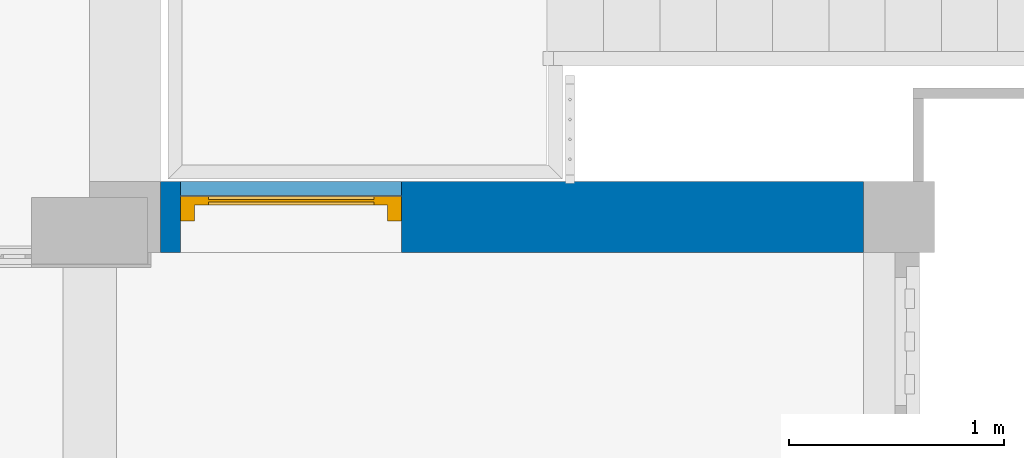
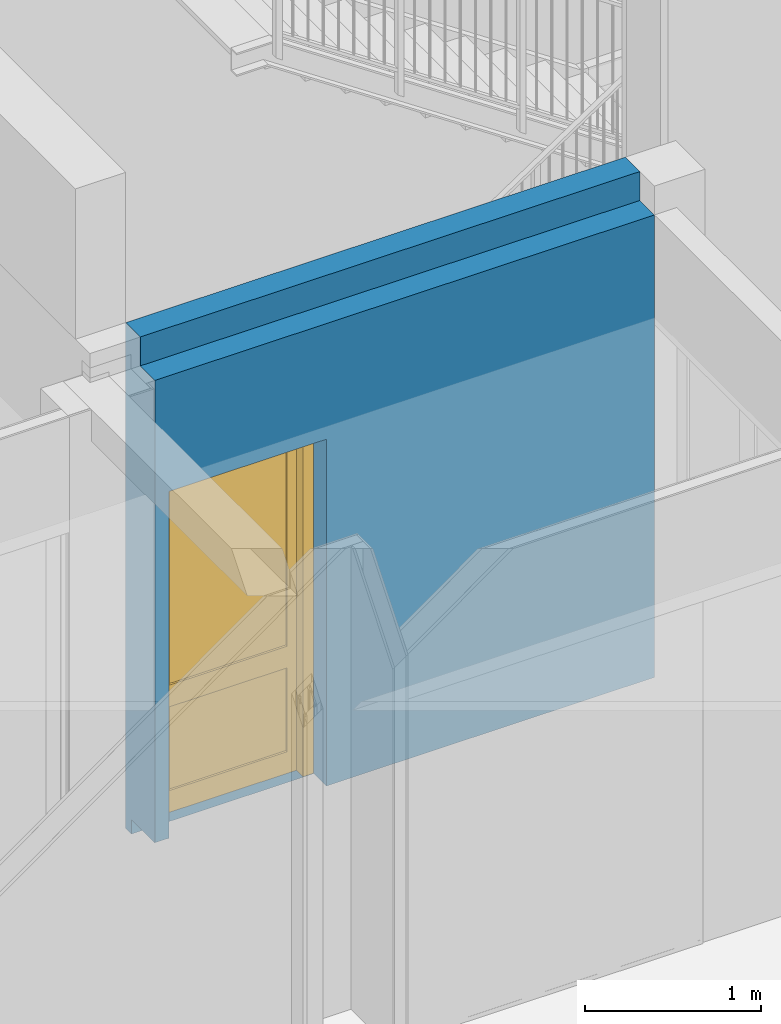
# One storey, part 40 of 117: 1 door, 1 wall, 1 opening.
"""IFC2X3 building model written with IfcOpenShell, lengths in millimetres."""

from ifc_helpers import new_model, entity, si_unit, converted_unit, derived_unit, money_unit, direction, frame, origin_with_axes, place, context, subcontext, project, spatial, faceted_brep, source, transform, mapped, material, type_object, type_shapes, element, fill, save


model = new_model("IFC2X3")

# Units and contexts
model_context = context("Model", 3, precision=0.01, world=origin_with_axes(), true_north=direction((0.0, 1.0)))
body_context = subcontext(model_context, "Body", "Model", "MODEL_VIEW")
ifc_project = project(units=[si_unit("LENGTHUNIT", "METRE", prefix="MILLI"), si_unit("AREAUNIT", "SQUARE_METRE"), si_unit("VOLUMEUNIT", "CUBIC_METRE"), converted_unit("PLANEANGLEUNIT", "DEGREE", entity("IfcPlaneAngleMeasure", 0.0174532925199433), si_unit("PLANEANGLEUNIT", "RADIAN"), dimensions=[0, 0, 0, 0, 0, 0, 0]), money_unit("EUR"), converted_unit("TIMEUNIT", "Year", entity("IfcTimeMeasure", 31557600.0), si_unit("TIMEUNIT", "SECOND"), dimensions=[0, 0, 1, 0, 0, 0, 0]), si_unit("MASSUNIT", "GRAM", prefix="KILO"), si_unit("THERMODYNAMICTEMPERATUREUNIT", "DEGREE_CELSIUS"), si_unit("LUMINOUSINTENSITYUNIT", "LUMEN"), si_unit("ENERGYUNIT", "JOULE", prefix="MEGA"), derived_unit("THERMALCONDUCTANCEUNIT", [(si_unit("POWERUNIT", "WATT"), 1), (si_unit("LENGTHUNIT", "METRE"), -1), (si_unit("THERMODYNAMICTEMPERATUREUNIT", "KELVIN"), -1)]), derived_unit("SPECIFICHEATCAPACITYUNIT", [(si_unit("ENERGYUNIT", "JOULE"), 1), (si_unit("MASSUNIT", "GRAM", prefix="KILO"), -1), (si_unit("THERMODYNAMICTEMPERATUREUNIT", "KELVIN"), -1)]), derived_unit("MASSDENSITYUNIT", [(si_unit("MASSUNIT", "GRAM", prefix="KILO"), 1), (si_unit("VOLUMEUNIT", "CUBIC_METRE"), -1)])], contexts=[model_context])

# Site, building, storey
site_placement = place(None, origin_with_axes())
site = spatial("IfcSite", under=ifc_project, at=site_placement, Name="Site", CompositionType="ELEMENT")
building_placement = place(site_placement, origin_with_axes())
building = spatial("IfcBuilding", under=site, at=building_placement, Name="Naam gebouw", CompositionType="ELEMENT")
storey_placement = place(building_placement, frame((0.0, 0.0, 4150.0), z_axis=(0.0, 0.0, 1.0), x_axis=(1.0, 0.0, 0.0)))
storey = spatial("IfcBuildingStorey", under=building, at=storey_placement, Name="1e verdieping N", CompositionType="ELEMENT", Elevation=4150.0)

# Wall, opening, door
ifc_material = material(Name="ALG - CONSTRUCTIEF")
wall_type = type_object("IfcWallType", Name="ALG - CONSTRUCTIEF 330", PredefinedType="NOTDEFINED")
wall_placement = place(storey_placement, frame((57599.99999999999, 20655.9124251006, -99.99999999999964), z_axis=(0.0, 0.0, 1.0), x_axis=(-1.0, 0.0, 0.0)))
wall = element("IfcWall", 1, at=wall_placement, inside=storey, type_object=wall_type, material=ifc_material, Name="_Wand-x", context=body_context, shape_type="Brep", body=[
    faceted_brep([(2148.07459316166, 70.00000000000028, 99.99999999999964), (2148.07459316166, 329.9999999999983, 99.99999999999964), (2148.07459316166, 329.9999999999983, 2500.0), (2148.07459316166, 0.0, 2500.0), (2148.07459316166, 0.0, 99.99999999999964), (2148.07459316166, 64.99999999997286, 99.99999999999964), (0.0, 64.99999999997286, 99.99999999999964), (0.0, 329.9999999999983, 99.99999999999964), (0.0, 330.0000000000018, 3300.0), (3269.999999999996, 329.9999999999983, 3300.0), (3269.999999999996, 329.9999999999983, 99.99999999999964), (3178.074593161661, 329.9999999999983, 99.99999999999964), (3178.074593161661, 329.9999999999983, 2500.0), (3178.074593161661, 0.0, 2500.0), (3269.999999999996, 0.0, 3500.0), (0.0, 0.0, 3500.0), (0.0, 0.0, 0.0), (3269.999999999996, 0.0, 0.0), (3178.074593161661, 0.0, 99.99999999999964), (3178.074593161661, 64.99999999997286, 99.99999999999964), (3269.999999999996, 64.99999999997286, 0.0), (0.0, 64.99999999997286, 0.0), (3269.999999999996, 64.99999999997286, 99.99999999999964), (0.0, 164.4824911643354, 3500.0), (0.0, 164.4824911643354, 3300.0), (3269.999999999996, 164.4824911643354, 3300.0), (3269.999999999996, 164.4824911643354, 3500.0), (3178.074593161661, 70.00000000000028, 99.99999999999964)], [[[0, 1, 2, 3, 4, 5]], [[1, 0, 5, 6, 7]], [[2, 1, 7, 8, 9, 10, 11, 12]], [[3, 2, 12, 13]], [[14, 15, 16, 17], [4, 3, 13, 18]], [[18, 19, 5, 4]], [[20, 21, 6, 5, 19, 22]], [[21, 16, 15, 23, 24, 8, 7, 6]], [[24, 25, 9, 8]], [[10, 9, 25, 26, 14, 17, 20, 22]], [[27, 11, 10, 22, 19]], [[12, 11, 27, 19, 18, 13]], [[23, 15, 14, 26]], [[20, 17, 16, 21]], [[23, 26, 25, 24]]]),
])
opening_placement = place(wall_placement, frame((2663.07459316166, 0.0, 99.99999999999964), z_axis=(0.0, 0.0, 1.0), x_axis=(1.0, 0.0, 0.0)))
opening = element("IfcOpeningElement", 2, at=opening_placement, cuts=wall, Name="_Merk-007", context=body_context, shape_type="Brep", body=[
    faceted_brep([(515.0000000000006, 70.00000000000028, 0.0), (515.0000000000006, 70.00000000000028, 2400.0), (515.0000000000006, -1.000000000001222, 2400.0), (515.0000000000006, -1.000000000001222, 0.0), (515.0000000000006, 330.9999999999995, 0.0), (515.0000000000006, 330.9999999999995, 2400.0), (-515.0000000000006, 70.00000000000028, 2400.0), (-515.0000000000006, -1.000000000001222, 2400.0), (-515.0000000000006, 330.9999999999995, 2400.0), (-515.0000000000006, -1.000000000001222, 0.0), (-515.0000000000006, 70.00000000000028, 0.0), (-515.0000000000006, 330.9999999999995, 0.0)], [[[0, 1, 2, 3]], [[1, 0, 4, 5]], [[6, 7, 2, 1, 5, 8]], [[7, 9, 3, 2]], [[0, 3, 9, 10, 11, 4]], [[5, 4, 11, 8]], [[6, 10, 9, 7]], [[10, 6, 8, 11]]]),
])
door_style = type_object("IfcDoorStyle", Name="D1 26", ConstructionType="NOTDEFINED", OperationType="SINGLE_SWING_LEFT", ParameterTakesPrecedence=False, Sizeable=False)
shared_shape = source(origin_with_axes(), body_context, "Body", "Brep", [
    faceted_brep([(448.0, -40.0, 0.0), (448.0, -114.0, 0.0), (448.0, -114.0, 2333.0), (448.0, -39.99999999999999, 2333.0), (465.0, -40.0, 0.0), (465.0, 0.0, 0.0), (515.0, 0.0, 0.0), (515.0, -114.0, 0.0), (515.0, -114.0, 2333.0), (465.0, -40.0, 2333.0), (515.0, 0.0, 2333.0), (465.0, 0.0, 2333.0)], [[[0, 1, 2, 3]], [[4, 5, 6, 7, 1, 0]], [[1, 7, 8, 2]], [[9, 3, 2, 8, 10, 11]], [[9, 4, 0, 3]], [[11, 5, 4, 9]], [[11, 10, 6, 5]], [[6, 10, 8, 7]]]),
    faceted_brep([(-465.0, -40.0, 2333.0), (-465.0, 0.0, 2333.0), (-515.0, 0.0, 2333.0), (-515.0, -114.0, 2333.0), (-448.0, -114.0, 2333.0), (-448.0, -39.99999999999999, 2333.0), (-465.0, -40.0, 0.0), (-465.0, 0.0, 0.0), (-515.0, 0.0, 0.0), (-515.0, -114.0, 0.0), (-448.0, -114.0, 0.0), (-448.0, -40.0, 0.0)], [[[0, 1, 2, 3, 4, 5]], [[0, 6, 7, 1]], [[7, 8, 2, 1]], [[2, 8, 9, 3]], [[3, 9, 10, 4]], [[5, 4, 10, 11]], [[5, 11, 6, 0]], [[6, 11, 10, 9, 8, 7]]]),
    faceted_brep([(465.0, 0.0, 2350.0), (-465.0, 0.0, 2350.0), (-465.0, 0.0, 2333.0), (-515.0, 0.0, 2333.0), (-515.0, 0.0, 2400.0), (515.0, 0.0, 2400.0), (515.0, 0.0, 2333.0), (465.0, 0.0, 2333.0), (465.0, -40.0, 2350.0), (-465.0, -40.0, 2350.0), (-465.0, -40.0, 2333.0), (-448.0, -39.99999999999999, 2333.0), (-448.0, -114.0, 2333.0), (-515.0, -114.0, 2333.0), (-515.0, -114.0, 2400.0), (515.0, -114.0, 2400.0), (515.0, -114.0, 2333.0), (465.0, -40.0, 2333.0), (448.0, -114.0, 2333.0), (448.0, -39.99999999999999, 2333.0)], [[[0, 1, 2, 3, 4, 5, 6, 7]], [[0, 8, 9, 1]], [[1, 9, 10, 2]], [[10, 11, 12, 13, 3, 2]], [[4, 3, 13, 14]], [[5, 4, 14, 15]], [[6, 5, 15, 16]], [[17, 7, 6, 16, 18, 19]], [[7, 17, 8, 0]], [[10, 9, 8, 17, 19, 11]], [[19, 18, 12, 11]], [[12, 18, 16, 15, 14, 13]]]),
    faceted_brep([(-465.0000000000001, 0.0, 150.0), (-385.0000000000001, 0.0, 150.0), (-385.0000000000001, -40.00000000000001, 150.0), (-465.0000000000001, -40.00000000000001, 150.0), (-465.0000000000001, 0.0, 2240.0), (-385.0000000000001, 0.0, 2240.0), (-385.0000000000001, 0.0, 880.0), (-385.0000000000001, 0.0, 730.0000000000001), (-385.0000000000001, -40.00000000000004, 730.0000000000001), (-385.0000000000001, -40.00000000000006, 880.0), (-385.0000000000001, -40.00000000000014, 2240.0), (-465.0000000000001, -40.00000000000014, 2240.0)], [[[0, 1, 2, 3]], [[0, 4, 5, 6, 7, 1]], [[1, 7, 8, 2]], [[3, 2, 8, 9, 10, 11]], [[4, 0, 3, 11]], [[5, 4, 11, 10]], [[6, 5, 10, 9]], [[7, 6, 9, 8]]]),
    faceted_brep([(464.9999999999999, 0.0, 150.0), (464.9999999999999, 0.0, 2240.0), (464.9999999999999, -40.00000000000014, 2240.0), (464.9999999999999, -40.00000000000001, 150.0), (385.0, 0.0, 150.0), (385.0, 0.0, 730.0000000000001), (385.0, 0.0, 880.0), (385.0, 0.0, 2240.0), (385.0, -40.00000000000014, 2240.0), (385.0, -40.00000000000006, 880.0), (385.0, -40.00000000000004, 730.0000000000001), (385.0, -40.00000000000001, 150.0)], [[[0, 1, 2, 3]], [[0, 4, 5, 6, 7, 1]], [[1, 7, 8, 2]], [[3, 2, 8, 9, 10, 11]], [[4, 0, 3, 11]], [[5, 4, 11, 10]], [[6, 5, 10, 9]], [[7, 6, 9, 8]]]),
    faceted_brep([(-465.0000000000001, 0.0, 0.0), (464.9999999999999, 0.0, 0.0), (464.9999999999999, -40.0, 0.0), (-465.0000000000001, -40.0, 0.0), (-465.0000000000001, 0.0, 150.0), (-385.0000000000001, 0.0, 150.0), (385.0, 0.0, 150.0), (464.9999999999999, 0.0, 150.0), (464.9999999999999, -40.00000000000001, 150.0), (385.0, -40.00000000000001, 150.0), (-385.0000000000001, -40.00000000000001, 150.0), (-465.0000000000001, -40.00000000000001, 150.0)], [[[0, 1, 2, 3]], [[0, 4, 5, 6, 7, 1]], [[1, 7, 8, 2]], [[3, 2, 8, 9, 10, 11]], [[4, 0, 3, 11]], [[5, 4, 11, 10]], [[6, 5, 10, 9]], [[7, 6, 9, 8]]]),
    faceted_brep([(385.0, 0.0, 730.0000000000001), (385.0, 0.0, 880.0), (385.0, -40.0, 880.0), (385.0, -40.0, 730.0000000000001), (-385.0000000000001, 0.0, 730.0000000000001), (-385.0000000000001, 0.0, 880.0), (-385.0000000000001, -40.0, 880.0), (-385.0000000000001, -40.0, 730.0000000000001)], [[[0, 1, 2, 3]], [[0, 4, 5, 1]], [[1, 5, 6, 2]], [[3, 2, 6, 7]], [[4, 0, 3, 7]], [[5, 4, 7, 6]]]),
    faceted_brep([(-465.0000000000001, 0.0, 2350.0), (-465.0000000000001, 0.0, 2240.0), (-465.0000000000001, -40.00000000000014, 2240.0), (-465.0000000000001, -40.00000000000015, 2350.0), (464.9999999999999, 0.0, 2350.0), (464.9999999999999, 0.0, 2240.0), (385.0, 0.0, 2240.0), (-385.0000000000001, 0.0, 2240.0), (-385.0000000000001, -40.00000000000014, 2240.0), (385.0, -40.00000000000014, 2240.0), (464.9999999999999, -40.00000000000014, 2240.0), (464.9999999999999, -40.00000000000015, 2350.0)], [[[0, 1, 2, 3]], [[0, 4, 5, 6, 7, 1]], [[1, 7, 8, 2]], [[3, 2, 8, 9, 10, 11]], [[4, 0, 3, 11]], [[5, 4, 11, 10]], [[6, 5, 10, 9]], [[7, 6, 9, 8]]]),
    faceted_brep([(-385.0000000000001, -14.0, 150.0), (385.0, -14.0, 150.0), (385.0, -26.0, 150.0), (-385.0000000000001, -26.0, 150.0), (-385.0000000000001, -14.0, 730.0000000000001), (385.0, -14.0, 730.0000000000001), (385.0, -26.0, 730.0000000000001), (-385.0000000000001, -26.0, 730.0000000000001)], [[[0, 1, 2, 3]], [[0, 4, 5, 1]], [[1, 5, 6, 2]], [[3, 2, 6, 7]], [[4, 0, 3, 7]], [[5, 4, 7, 6]]]),
    faceted_brep([(-385.0000000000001, -14.0, 880.0), (385.0, -14.0, 880.0), (385.0, -26.0, 880.0), (-385.0000000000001, -26.0, 880.0), (-385.0000000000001, -14.0, 2240.0), (385.0, -14.0, 2240.0), (385.0, -26.0, 2240.0), (-385.0000000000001, -26.0, 2240.0)], [[[0, 1, 2, 3]], [[0, 4, 5, 1]], [[1, 5, 6, 2]], [[3, 2, 6, 7]], [[4, 0, 3, 7]], [[5, 4, 7, 6]]]),
])
type_shapes(door_style, [shared_shape])
door_placement = place(opening_placement, frame((515.0000000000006, 0.0, 0.0), z_axis=(0.0, 0.0, 1.0), x_axis=(-1.0, 0.0, 0.0)))
door = element("IfcDoor", 3, at=door_placement, inside=storey, type_object=door_style, Name="_Merk-007", ObjectType="DOOR", OverallHeight=2400.0, OverallWidth=1030.0, context=body_context, shape_type="MappedRepresentation", body=[
    mapped(shared_shape, transform((515.0000000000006, -70.00000000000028, 0.0))),
])
fill(opening, door)

save(model, "model.ifc")
